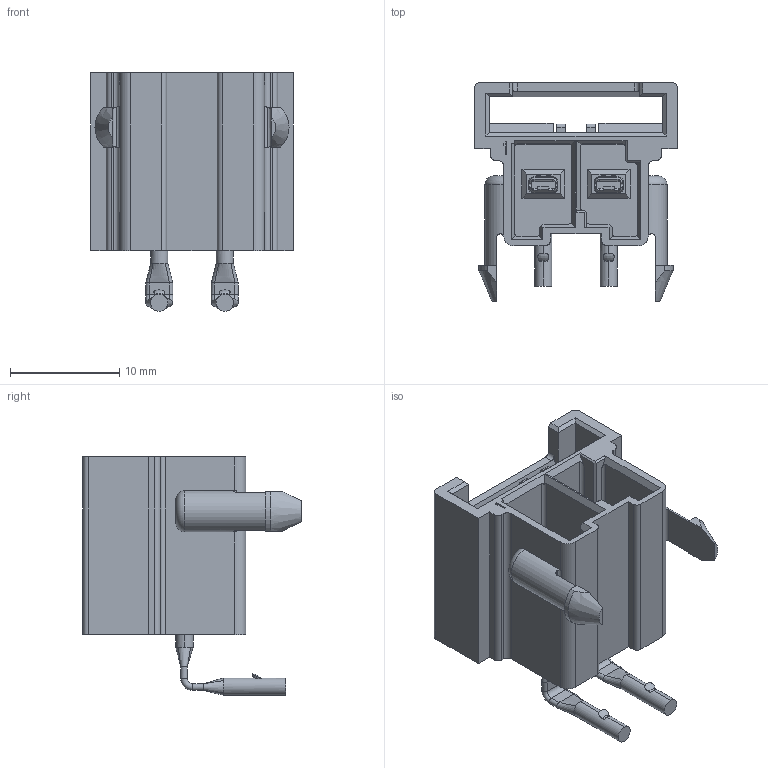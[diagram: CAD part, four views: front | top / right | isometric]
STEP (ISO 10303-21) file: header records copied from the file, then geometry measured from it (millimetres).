
FILE_DESCRIPTION((''),'2;1');
FILE_NAME('C-1-1969694-2','2021-07-12T01:09:54',('workeradm'),('TE Connectivity Ltd.'),'CREO PARAMETRIC BY PTC INC, 2019292','CREO PARAMETRIC BY PTC INC, 2019292','');
FILE_SCHEMA(('AUTOMOTIVE_DESIGN { 1 0 10303 214 1 1 1 1 }'));
Length unit declared in the file: millimetre
Products named in the file (1): C-1-1969694-2
Bounding box: 18.6 x 20.05 x 21.86 mm (x, y, z)
Volume: 1933.8 mm3; surface area: 2716.1 mm2
Topology: 1 solids, 1 shells, 385 faces, 1054 edges, 680 vertices
Faces by surface type: plane 199, cylinder 94, extrusion 24, bspline 24, cone 20, sphere 16, torus 8
Entity records: 14264 total; most frequent: CARTESIAN_POINT 4355, ORIENTED_EDGE 2108, DIRECTION 1847, EDGE_CURVE 1054, VERTEX_POINT 680, VECTOR 665, LINE 641, AXIS2_PLACEMENT_3D 591
